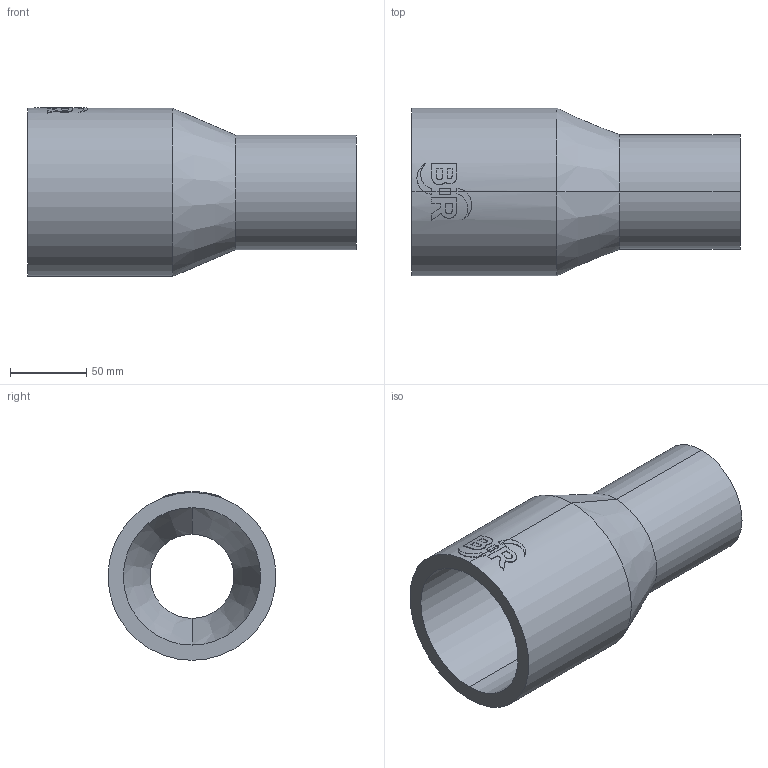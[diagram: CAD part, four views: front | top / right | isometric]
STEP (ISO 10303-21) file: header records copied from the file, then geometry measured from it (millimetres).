
FILE_DESCRIPTION (( 'STEP AP214' ), '1' );
FILE_NAME ('2323141215.STEP', '2018-07-20T09:37:39', ( '' ), ( '' ), 'SwSTEP 2.0', 'SolidWorks 2017', '' );
FILE_SCHEMA (( 'AUTOMOTIVE_DESIGN' ));
Length unit declared in the file: millimetre
Products named in the file (1): 2323141215
Bounding box: 215 x 110 x 110.46 mm (x, y, z)
Volume: 574409.4 mm3; surface area: 120170.7 mm2
Topology: 1 solids, 1 shells, 63 faces, 160 edges, 104 vertices
Faces by surface type: cylinder 31, plane 28, cone 4
Entity records: 3182 total; most frequent: CARTESIAN_POINT 973, ORIENTED_EDGE 320, DIRECTION 296, EDGE_CURVE 160, AXIS2_PLACEMENT_3D 112, VERTEX_POINT 104, VECTOR 72, LINE 72
